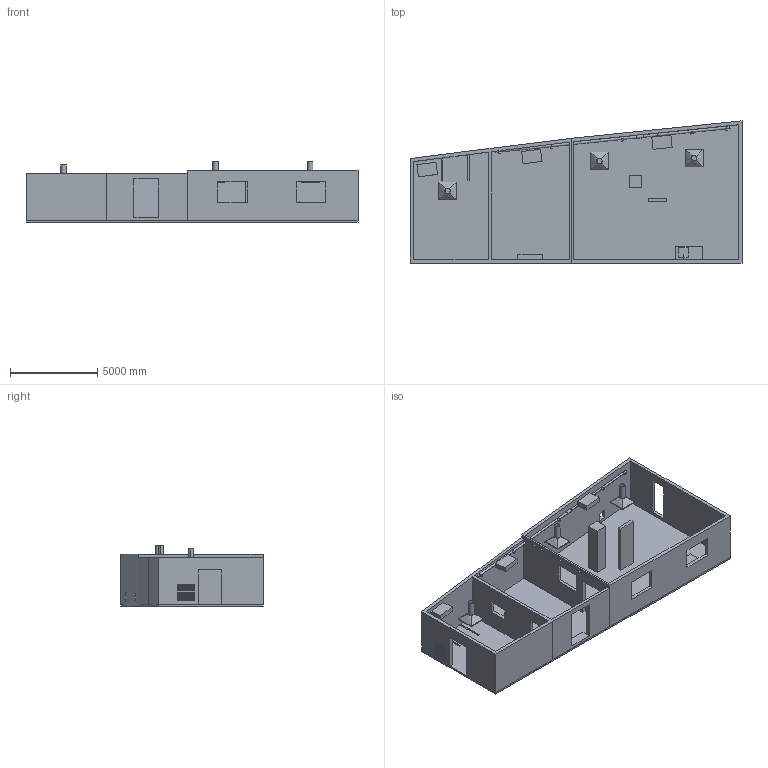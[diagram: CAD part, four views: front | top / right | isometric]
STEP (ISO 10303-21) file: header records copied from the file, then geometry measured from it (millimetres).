
FILE_DESCRIPTION(('CATIA V5 STEP Exchange'),'2;1');
FILE_NAME('E:\OneDrive\1_WORK\PROJET\RENOVATION_SALLES_020_010\0_CAO_Salles_Expes\Salle010_CASTEX\25_11_Espace_G_Darrieus_Vide_2\25_11_Espace_G_Darrieus_En-l-Etat.stp','2026-02-11T13:38:29+00:00',('none'),('none'),'CATIA Version 5 Release 21 GA (IN-10)','CATIA V5 STEP AP203','none');
FILE_SCHEMA(('CONFIG_CONTROL_DESIGN'));
Length unit declared in the file: millimetre
Products named in the file (1): Espace_G_Darrieus_En-l-Etat
Assembly tree (9 placements, depth 2):
  Espace_G_Darrieus_En-l-Etat
    #58
    #4343  x3
    #6783
    #7323  x3
    #7528
Bounding box: 19050 x 8155.66 x 3500 mm (x, y, z)
Volume: 49487781452.5 mm3; surface area: 687884178.7 mm2
Topology: 12 solids, 12 shells, 283 faces, 719 edges, 457 vertices
Faces by surface type: plane 221, cylinder 34, bspline 24, torus 4
Entity records: 8711 total; most frequent: CARTESIAN_POINT 3401, ORIENTED_EDGE 1158, DIRECTION 861, EDGE_CURVE 579, VECTOR 487, LINE 487, VERTEX_POINT 377, EDGE_LOOP 264
